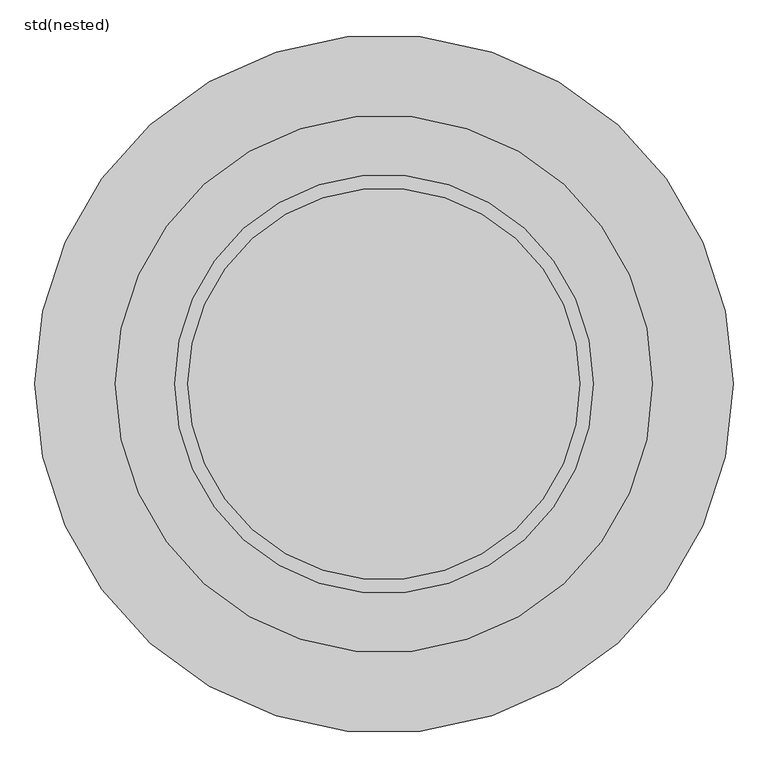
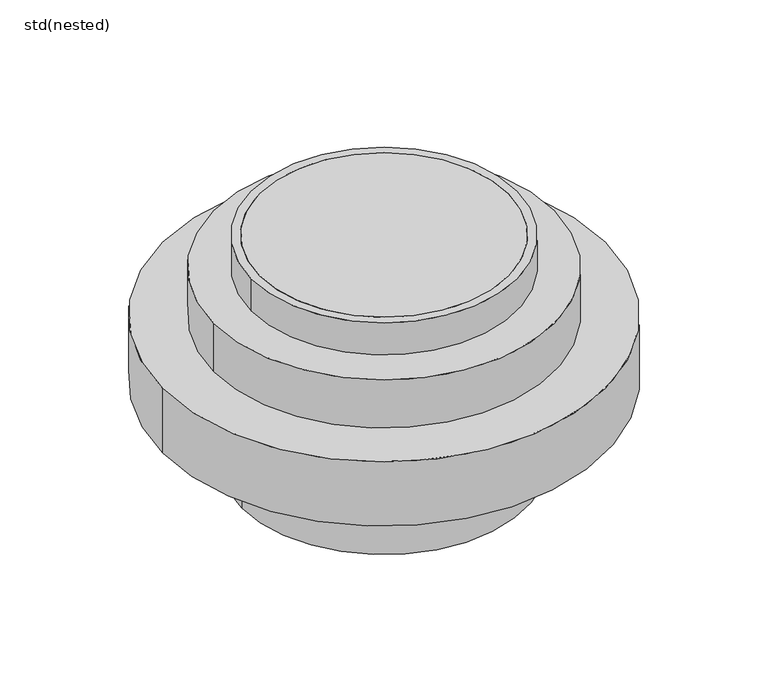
"""IFC4 building model written with IfcOpenShell, lengths in millimetres: unitary equipment geometry, ZZZ_do not use_ME_ST_WPB_top sections_plastic_ACO : std(nested)."""

from ifc_helpers import new_model, si_unit, point, frame, origin, origin_2d, place, context, project, spatial, polyline, circle_curve, trimmed, segment, composite_curve, outline, extrude, source, transform, mapped, element, save
from ifc_brep_helpers import plane_surface, cylinder_surface, revolved_surface, advanced_brep


def std_nested_5bbcf8f4(model_context):
    return source(origin(), model_context, "Body", "SolidModel", [
        advanced_brep(
        [(-409.8623627, 0.0, -270.0), (409.8623627, 0.0, -270.0), (417.8623627, 0.0, -270.0), (-417.8623627, 0.0, -270.0), (-409.8623627, 0.0, -701.0), (409.8623627, 0.0, -701.0), (-417.8623627, 0.0, -701.0), (417.8623627, 0.0, -701.0)],
        [
            (0, 1, circle_curve(frame((0.0, 0.0, -270.0), z_axis=(0.0, 0.0, -1.0), x_axis=(1.0, 0.0, 0.0)), 409.8623627)),
            (1, 2),
            (2, 3, circle_curve(frame((0.0, 0.0, -270.0), z_axis=(0.0, 0.0, 1.0), x_axis=(1.0, 0.0, 0.0)), 417.8623627)),
            (3, 0),
            (1, 0, circle_curve(frame((0.0, 0.0, -270.0), z_axis=(0.0, 0.0, -1.0), x_axis=(1.0, 0.0, 0.0)), 409.8623627)),
            (3, 2, circle_curve(frame((0.0, 0.0, -270.0), z_axis=(0.0, 0.0, 1.0), x_axis=(1.0, 0.0, 0.0)), 417.8623627)),
            (4, 5, circle_curve(frame((0.0, 0.0, -701.0), z_axis=(0.0, 0.0, -1.0), x_axis=(1.0, 0.0, 0.0)), 409.8623627)),
            (5, 1),
            (0, 4),
            (5, 4, circle_curve(frame((0.0, 0.0, -701.0), z_axis=(0.0, 0.0, -1.0), x_axis=(1.0, 0.0, 0.0)), 409.8623627)),
            (6, 7, circle_curve(frame((0.0, 0.0, -701.0), z_axis=(0.0, 0.0, -1.0), x_axis=(1.0, 0.0, 0.0)), 417.8623627)),
            (7, 5),
            (4, 6),
            (7, 6, circle_curve(frame((0.0, 0.0, -701.0), z_axis=(0.0, 0.0, -1.0), x_axis=(1.0, 0.0, 0.0)), 417.8623627)),
            (2, 7),
            (6, 3),
        ],
        [
            plane_surface(frame((0.0, 0.0, -270.0), z_axis=(0.0, 0.0, 1.0), x_axis=(1.0, 0.0, 0.0))),
            revolved_surface(polyline([(409.8623627, 0.0, -270.0), (409.8623627, 0.0, -701.0)]), (0.0, 0.0, 100.0), (0.0, 0.0, 1.0)),
            plane_surface(frame((0.0, 0.0, -701.0), z_axis=(0.0, 0.0, -1.0), x_axis=(1.0, 0.0, 0.0))),
            cylinder_surface(frame((0.0, 0.0, 100.0), z_axis=(0.0, 0.0, 1.0), x_axis=(1.0, 0.0, 0.0)), 417.8623627),
        ],
        [
            (0, [[1, 2, 3, 4]]),
            (0, [[5, -4, 6, -2]]),
            (1, [[7, 8, -1, 9]]),
            (1, [[10, -9, -5, -8]]),
            (2, [[11, 12, -7, 13]]),
            (2, [[14, -13, -10, -12]]),
            (3, [[-3, 15, -11, 16]]),
            (3, [[-6, -16, -14, -15]]),
        ],
    ),
        extrude(outline(composite_curve([segment(trimmed(circle_curve(origin_2d(), 500.0), [point((-500.0, 0.0))], [point((500.0, 0.0))], False, "CARTESIAN"), True, "CONTINUOUS"), segment(trimmed(circle_curve(origin_2d(), 500.0), [point((500.0, 0.0))], [point((-500.0, 0.0))], False, "CARTESIAN"), True, "CONTINUOUS")], self_intersect=False)), frame((0.0, 0.0, -250.0), z_axis=(0.0, 0.0, 1.0), x_axis=(1.0, 0.0, 0.0)), (0.0, 0.0, 1.0), 150.0),
        extrude(outline(composite_curve([segment(trimmed(circle_curve(origin_2d(), 650.0), [point((-650.0, 0.0))], [point((650.0, 0.0))], False, "CARTESIAN"), True, "CONTINUOUS"), segment(trimmed(circle_curve(origin_2d(), 650.0), [point((650.0, 0.0))], [point((-650.0, 0.0))], False, "CARTESIAN"), True, "CONTINUOUS")], self_intersect=False), holes=[composite_curve([segment(trimmed(circle_curve(origin_2d(), 418.0), [point((-418.0, 0.0))], [point((418.0, 0.0))], True, "CARTESIAN"), True, "CONTINUOUS"), segment(trimmed(circle_curve(origin_2d(), 418.0), [point((418.0, 0.0))], [point((-418.0, 0.0))], True, "CARTESIAN"), True, "CONTINUOUS")], self_intersect=False)]), frame((0.0, 0.0, -450.0), z_axis=(0.0, 0.0, 1.0), x_axis=(1.0, 0.0, 0.0)), (0.0, 0.0, 1.0), 200.0),
        extrude(outline(composite_curve([segment(trimmed(circle_curve(origin_2d(), 365.0), [point((365.0, 0.0))], [point((-365.0, 0.0))], False, "CARTESIAN"), True, "CONTINUOUS"), segment(trimmed(circle_curve(origin_2d(), 365.0), [point((-365.0, 0.0))], [point((365.0, 0.0))], False, "CARTESIAN"), True, "CONTINUOUS")], self_intersect=False)), frame((0.0, 0.0, -100.0), z_axis=(0.0, 0.0, 1.0), x_axis=(1.0, 0.0, 0.0)), (0.0, 0.0, 1.0), 100.0),
        extrude(outline(composite_curve([segment(trimmed(circle_curve(origin_2d(), 390.0), [point((-390.0, 0.0))], [point((390.0, 0.0))], False, "CARTESIAN"), True, "CONTINUOUS"), segment(trimmed(circle_curve(origin_2d(), 390.0), [point((390.0, 0.0))], [point((-390.0, 0.0))], False, "CARTESIAN"), True, "CONTINUOUS")], self_intersect=False), holes=[composite_curve([segment(trimmed(circle_curve(origin_2d(), 365.0), [point((-365.0, 0.0))], [point((365.0, 0.0))], True, "CARTESIAN"), True, "CONTINUOUS"), segment(trimmed(circle_curve(origin_2d(), 365.0), [point((365.0, 0.0))], [point((-365.0, 0.0))], True, "CARTESIAN"), True, "CONTINUOUS")], self_intersect=False)]), frame((0.0, 0.0, -100.0), z_axis=(0.0, 0.0, 1.0), x_axis=(1.0, 0.0, 0.0)), (0.0, 0.0, 1.0), 100.0),
    ])


if __name__ == "__main__":
    model = new_model("IFC4")
    model_context = context("Model", 3, world=origin())
    ifc_project = project(units=[si_unit("LENGTHUNIT", "METRE", prefix="MILLI")], contexts=[model_context])
    site = spatial("IfcSite", under=ifc_project)
    building = spatial("IfcBuilding", under=site)
    placement = place(None, origin())
    std_nested_shape = std_nested_5bbcf8f4(model_context)
    element("IfcUnitaryEquipment", 1, ObjectType="ZZZ_do not use_ME_ST_WPB_top sections_plastic_ACO : std(nested)", at=placement, inside=building, context=model_context, shape_type="MappedRepresentation", body=[
        mapped(std_nested_shape, transform((0.0, 0.0, 0.0), x_axis=(1.0, 0.0, 0.0), y_axis=(0.0, 1.0, 0.0), z_axis=(0.0, 0.0, 1.0))),
    ])
    save(model, "model.ifc")
